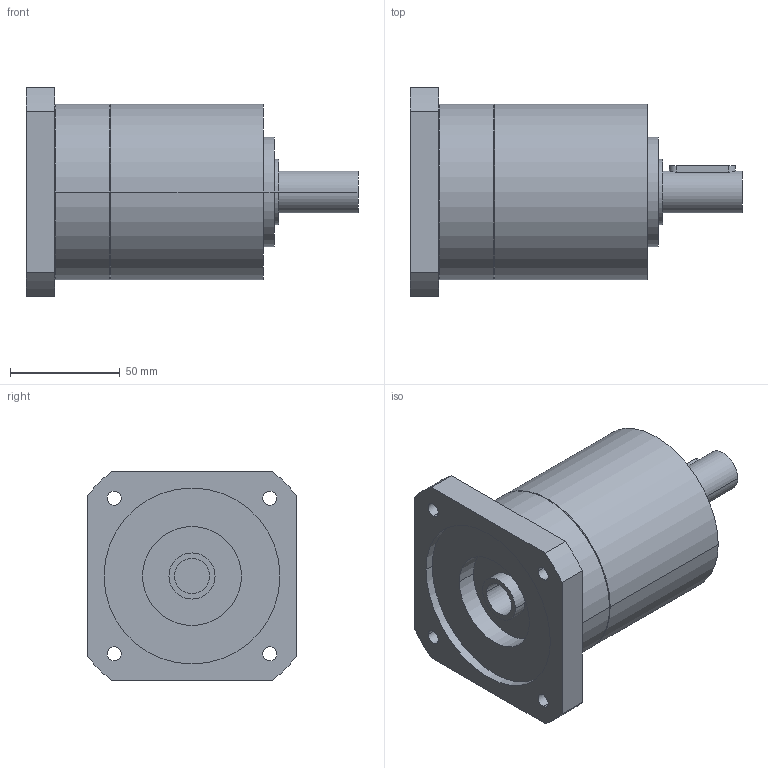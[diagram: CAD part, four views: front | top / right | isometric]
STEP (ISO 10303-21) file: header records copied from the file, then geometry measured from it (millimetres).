
FILE_DESCRIPTION(('CoCreate Modeling STEP Export'),'2;1');
FILE_NAME('GPR100_ig-3-4-5-6_19_B14_16_P06.stp','2014-08-26T10:08:06',(''),(''),'CoCreate Modeling STEP processor for AP214 (Solid Model)','CoCreate Modeling 16.00C 25-Feb-2009 (C) Parametric Technology GmbH','');
FILE_SCHEMA(('AUTOMOTIVE_DESIGN { 1 0 10303 214 1 1 1 1 }'));
Length unit declared in the file: millimetre
Products named in the file (2): GPR100_ig-3-4-5-6_19_B14_16_P06
Assembly tree (1 placements, depth 2):
  GPR100_ig-3-4-5-6_19_B14_16_P06
    GPR100_ig-3-4-5-6_19_B14_16_P06
Bounding box: 151 x 95 x 95 mm (x, y, z)
Volume: 570460.5 mm3; surface area: 56475.7 mm2
Topology: 1 solids, 1 shells, 70 faces, 189 edges, 133 vertices
Faces by surface type: cylinder 42, plane 22, cone 6
Entity records: 1944 total; most frequent: ORIENTED_EDGE 374, CARTESIAN_POINT 361, DIRECTION 262, EDGE_CURVE 187, VERTEX_POINT 133, AXIS2_PLACEMENT_3D 98, EDGE_LOOP 92, FACE_OUTER_BOUND 70
